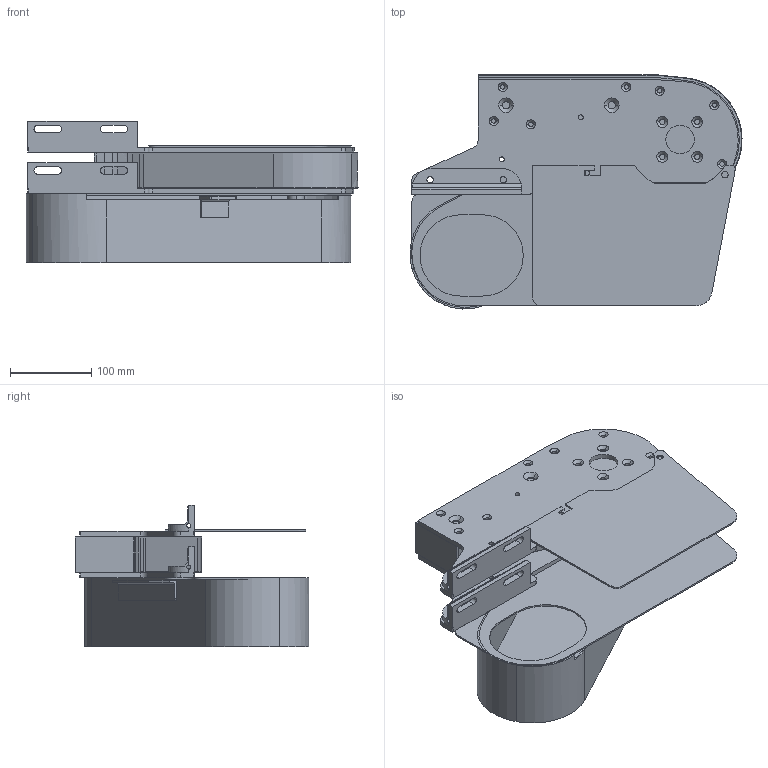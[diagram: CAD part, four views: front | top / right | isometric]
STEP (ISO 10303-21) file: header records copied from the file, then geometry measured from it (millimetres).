
FILE_DESCRIPTION (( 'STEP AP214' ), '1' );
FILE_NAME ('FKSD-0L.step', '2017-04-07T11:07:22', ( '' ), ( '' ), 'SwSTEP 2.0', 'SolidWorks 2016', '' );
FILE_SCHEMA (( 'AUTOMOTIVE_DESIGN' ));
Length unit declared in the file: millimetre
Products named in the file (1): FKSD-0L
Bounding box: 408.58 x 287.78 x 174 mm (x, y, z)
Volume: 2758160.4 mm3; surface area: 647616.9 mm2
Topology: 2 solids, 3 shells, 490 faces, 1245 edges, 790 vertices
Faces by surface type: cylinder 224, plane 187, cone 60, bspline 17, torus 2
Entity records: 19617 total; most frequent: CARTESIAN_POINT 4345, DIRECTION 2648, ORIENTED_EDGE 2490, EDGE_CURVE 1245, AXIS2_PLACEMENT_3D 985, VERTEX_POINT 790, VECTOR 678, LINE 678
